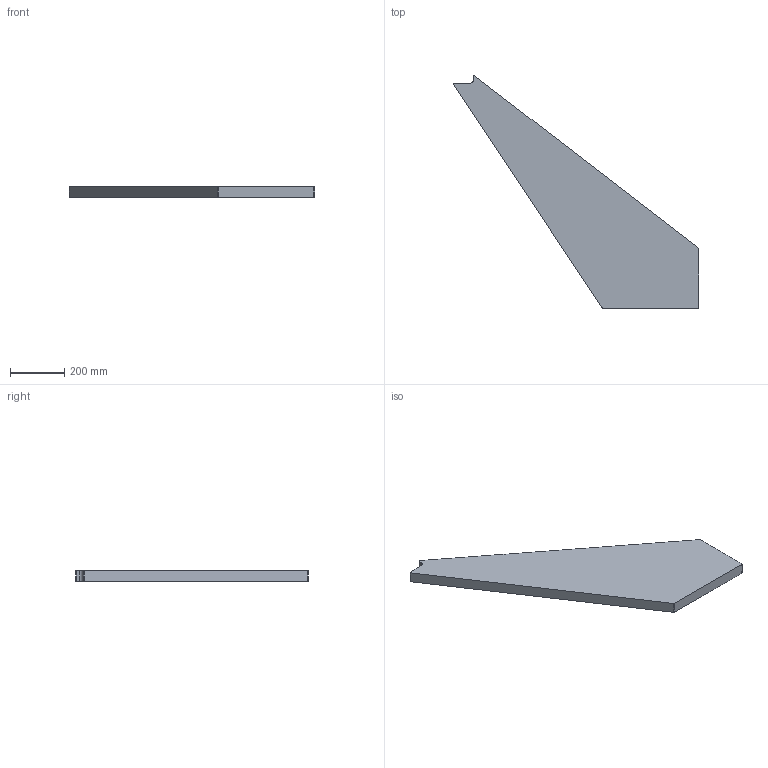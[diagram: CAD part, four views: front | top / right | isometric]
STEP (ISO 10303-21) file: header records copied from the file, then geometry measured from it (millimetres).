
FILE_DESCRIPTION(/* description */ (''),/* implementation_level */ '2;1');
FILE_NAME(/* name */ 'Pos100-Hout D= 40-Hout-3st',/* time_stamp */ '2024-08-06T13:37:43+02:00',/* author */ (''),/* organization */ (''),/* preprocessor_version */ 'ST-DEVELOPER v16.5',/* originating_system */ 'HiCAD 2024 2901.2 Build 361',/* authorisation */ '');
FILE_SCHEMA (('AUTOMOTIVE_DESIGN { 1 0 10303 214 1 1 1 1 }'));
Length unit declared in the file: millimetre
Products named in the file (2): Pos100-Hout D= 40-Hout-3st; Pos0-Antislip-Rubber-0st
Assembly tree (1 placements, depth 2):
  Pos100-Hout D= 40-Hout-3st
    Pos0-Antislip-Rubber-0st
Bounding box: 904.65 x 857.35 x 40 mm (x, y, z)
Volume: 11367986.3 mm3; surface area: 676859.9 mm2
Topology: 1 solids, 1 shells, 14 faces, 36 edges, 24 vertices
Faces by surface type: plane 8, cylinder 6
Entity records: 836 total; most frequent: DIRECTION 80, CARTESIAN_POINT 76, PRESENTATION_STYLE_ASSIGNMENT 73, COLOUR_RGB 73, DRAUGHTING_PRE_DEFINED_CURVE_FONT 72, CURVE_STYLE 72, OVER_RIDING_STYLED_ITEM 72, ORIENTED_EDGE 72
